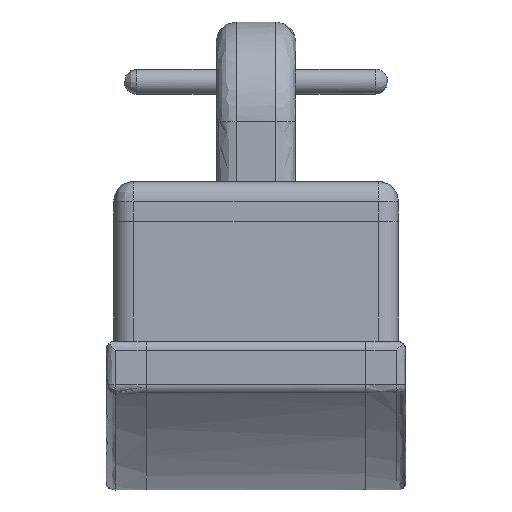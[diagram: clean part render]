
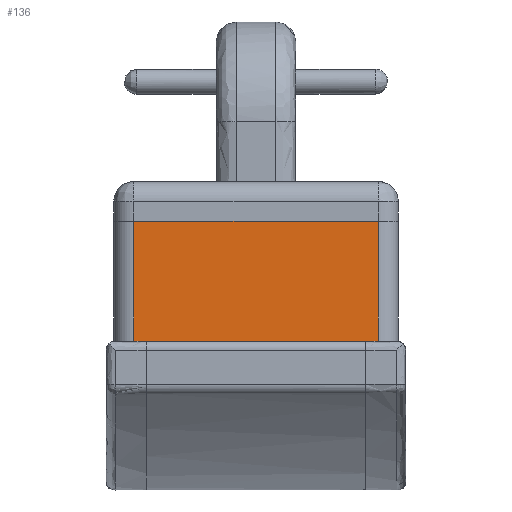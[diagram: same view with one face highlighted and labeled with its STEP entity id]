
A CAD part, left-side view. The second image highlights one B-rep face of the part: STEP entity #136.
In plain terms, the highlighted planar face has unit normal (-1, 0, 0).
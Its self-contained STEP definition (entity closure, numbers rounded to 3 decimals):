
#136=ADVANCED_FACE('',(#270),#1818,.T.);
#270=FACE_OUTER_BOUND('',#404,.T.);
#404=EDGE_LOOP('',(#799,#800,#801,#802));
#799=ORIENTED_EDGE('',*,*,#1204,.T.);
#800=ORIENTED_EDGE('',*,*,#1196,.F.);
#801=ORIENTED_EDGE('',*,*,#1203,.F.);
#802=ORIENTED_EDGE('',*,*,#1205,.T.);
#1196=EDGE_CURVE('',#1713,#1714,#1424,.T.);
#1203=EDGE_CURVE('',#1718,#1713,#1429,.T.);
#1204=EDGE_CURVE('',#1719,#1714,#1430,.T.);
#1205=EDGE_CURVE('',#1718,#1719,#1431,.T.);
#1424=B_SPLINE_CURVE_WITH_KNOTS('',1,(#4323,#4324),.UNSPECIFIED.,.F.,.F.,
(2,2),(0.,244.933),.UNSPECIFIED.);
#1429=B_SPLINE_CURVE_WITH_KNOTS('',1,(#4339,#4340),.UNSPECIFIED.,.F.,.F.,
(2,2),(-1.,0.),.UNSPECIFIED.);
#1430=B_SPLINE_CURVE_WITH_KNOTS('',1,(#4341,#4342),.UNSPECIFIED.,.F.,.F.,
(2,2),(0.,1.),.UNSPECIFIED.);
#1431=B_SPLINE_CURVE_WITH_KNOTS('',1,(#4343,#4344),.UNSPECIFIED.,.F.,.F.,
(2,2),(-1.,0.),.UNSPECIFIED.);
#1713=VERTEX_POINT('',#4299);
#1714=VERTEX_POINT('',#4300);
#1718=VERTEX_POINT('',#4304);
#1719=VERTEX_POINT('',#4305);
#1818=PLANE('',#1970);
#1970=AXIS2_PLACEMENT_3D('',#4274,#2035,$);
#2035=DIRECTION('',(-1.,0.,0.));
#4274=CARTESIAN_POINT('',(-480.093,-122.5,150.02));
#4299=CARTESIAN_POINT('',(-480.093,122.433,270.02));
#4300=CARTESIAN_POINT('',(-480.093,-122.5,270.02));
#4304=CARTESIAN_POINT('',(-480.093,122.433,150.02));
#4305=CARTESIAN_POINT('',(-480.093,-122.5,150.02));
#4323=CARTESIAN_POINT('',(-480.093,122.433,270.02));
#4324=CARTESIAN_POINT('',(-480.093,-122.5,270.02));
#4339=CARTESIAN_POINT('',(-480.093,122.433,150.02));
#4340=CARTESIAN_POINT('',(-480.093,122.433,270.02));
#4341=CARTESIAN_POINT('',(-480.093,-122.5,150.02));
#4342=CARTESIAN_POINT('',(-480.093,-122.5,270.02));
#4343=CARTESIAN_POINT('',(-480.093,122.433,150.02));
#4344=CARTESIAN_POINT('',(-480.093,-122.5,150.02));
